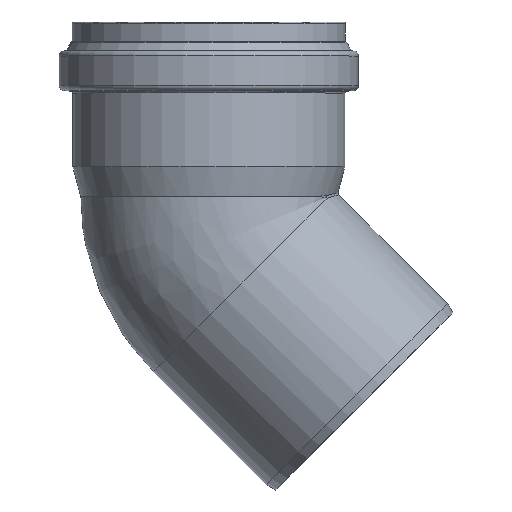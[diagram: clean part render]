
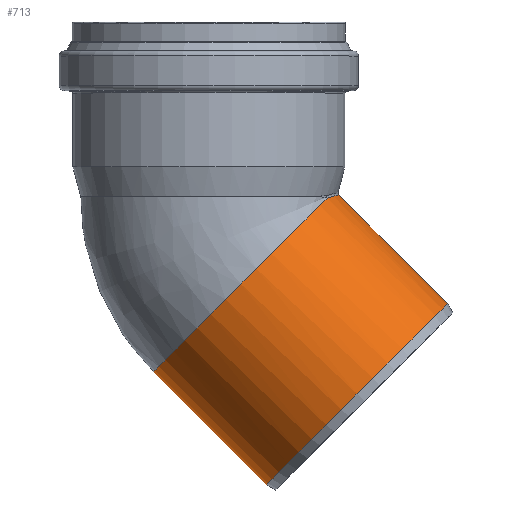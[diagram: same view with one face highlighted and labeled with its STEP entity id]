
A CAD part, top view. The second image highlights one B-rep face of the part: STEP entity #713.
In plain terms, the highlighted cylindrical face has radius 100.15 mm (diameter 200.3 mm), a full revolution.
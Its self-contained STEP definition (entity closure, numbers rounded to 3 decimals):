
#34=B_SPLINE_CURVE_WITH_KNOTS('',3,(#1194,#1195,#1196,#1197,#1198,#1199),
 .UNSPECIFIED.,.F.,.F.,(4,1,1,4),(0.,3.619,
6.032,8.445),.UNSPECIFIED.);
#43=CYLINDRICAL_SURFACE('',#782,100.15);
#62=FACE_OUTER_BOUND('',#106,.T.);
#106=EDGE_LOOP('',(#474,#475,#476,#477,#478,#479));
#150=LINE('',#1190,#171);
#171=VECTOR('',#918,100.15);
#191=CIRCLE('',#778,100.15);
#194=CIRCLE('',#783,100.15);
#195=CIRCLE('',#784,100.15);
#276=VERTEX_POINT('',#1180);
#279=VERTEX_POINT('',#1189);
#280=VERTEX_POINT('',#1191);
#281=VERTEX_POINT('',#1193);
#352=EDGE_CURVE('',#276,#276,#191,.T.);
#356=EDGE_CURVE('',#276,#279,#150,.T.);
#357=EDGE_CURVE('',#279,#280,#194,.T.);
#358=EDGE_CURVE('',#281,#280,#34,.T.);
#359=EDGE_CURVE('',#281,#279,#195,.T.);
#474=ORIENTED_EDGE('',*,*,#352,.F.);
#475=ORIENTED_EDGE('',*,*,#356,.T.);
#476=ORIENTED_EDGE('',*,*,#357,.T.);
#477=ORIENTED_EDGE('',*,*,#358,.F.);
#478=ORIENTED_EDGE('',*,*,#359,.T.);
#479=ORIENTED_EDGE('',*,*,#356,.F.);
#713=ADVANCED_FACE('',(#62),#43,.T.);
#778=AXIS2_PLACEMENT_3D('',#1181,#907,#908);
#782=AXIS2_PLACEMENT_3D('',#1188,#916,#917);
#783=AXIS2_PLACEMENT_3D('',#1192,#919,#920);
#784=AXIS2_PLACEMENT_3D('',#1200,#921,#922);
#907=DIRECTION('center_axis',(0.707,-0.707,0.));
#908=DIRECTION('ref_axis',(0.707,0.707,0.));
#916=DIRECTION('center_axis',(0.707,-0.707,0.));
#917=DIRECTION('ref_axis',(0.707,0.707,0.));
#918=DIRECTION('',(-0.707,0.707,0.));
#919=DIRECTION('center_axis',(0.707,-0.707,0.));
#920=DIRECTION('ref_axis',(0.707,0.707,0.));
#921=DIRECTION('center_axis',(0.707,-0.707,0.));
#922=DIRECTION('ref_axis',(0.707,0.707,0.));
#1180=CARTESIAN_POINT('',(45.104,-186.737,0.));
#1181=CARTESIAN_POINT('Origin',(115.92,-115.92,0.));
#1188=CARTESIAN_POINT('Origin',(71.726,-71.726,0.));
#1189=CARTESIAN_POINT('',(-43.285,-98.349,0.));
#1190=CARTESIAN_POINT('',(0.909,-142.543,0.));
#1191=CARTESIAN_POINT('',(92.475,37.411,-39.937));
#1192=CARTESIAN_POINT('Origin',(27.532,-27.532,0.));
#1193=CARTESIAN_POINT('',(92.475,37.411,39.937));
#1194=CARTESIAN_POINT('Ctrl Pts',(92.475,37.411,39.937));
#1195=CARTESIAN_POINT('Ctrl Pts',(97.547,38.856,29.337));
#1196=CARTESIAN_POINT('Ctrl Pts',(102.661,40.401,9.958));
#1197=CARTESIAN_POINT('Ctrl Pts',(100.853,39.85,-17.839));
#1198=CARTESIAN_POINT('Ctrl Pts',(95.856,38.374,-32.871));
#1199=CARTESIAN_POINT('Ctrl Pts',(92.475,37.411,-39.937));
#1200=CARTESIAN_POINT('Origin',(27.532,-27.532,0.));
